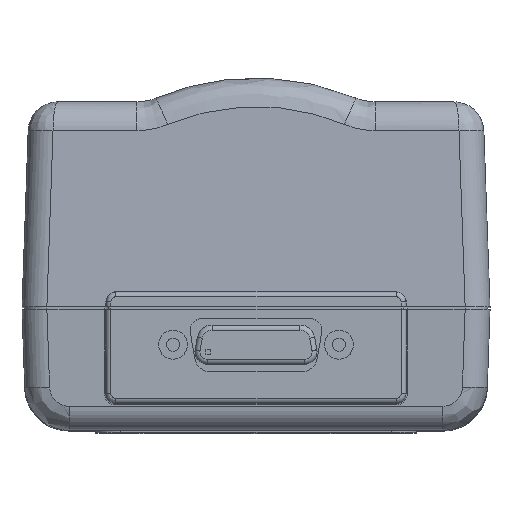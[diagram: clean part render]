
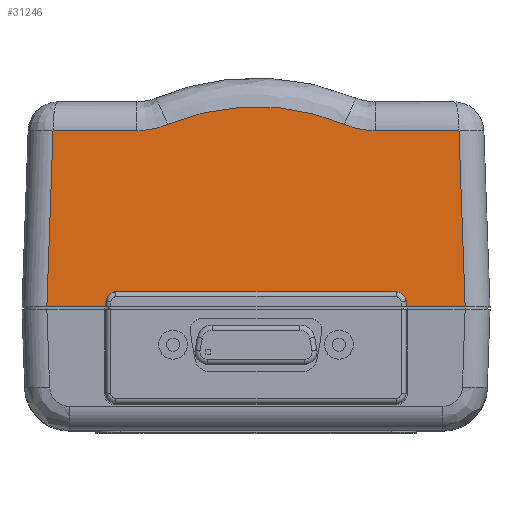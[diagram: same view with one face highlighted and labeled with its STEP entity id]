
A CAD part, top view. The second image highlights one B-rep face of the part: STEP entity #31246.
In plain terms, the highlighted planar face has unit normal (0, 0.035, 0.999).
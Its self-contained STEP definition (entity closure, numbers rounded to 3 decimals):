
#2376=ELLIPSE('',#33282,2.001,2.);
#2377=ELLIPSE('',#33285,2.001,2.);
#2391=ELLIPSE('',#33333,16.01,16.);
#2392=ELLIPSE('',#33335,46.028,46.);
#2393=ELLIPSE('',#33337,16.01,16.);
#2846=PLANE('',#33348);
#3865=FACE_OUTER_BOUND('',#5722,.T.);
#5722=EDGE_LOOP('',(#22357,#22358,#22359,#22360,#22361,#22362,#22363,#22364,
#22365,#22366,#22367,#22368,#22369,#22370));
#7572=LINE('',#40670,#10484);
#7576=LINE('',#40690,#10488);
#7744=LINE('',#41401,#10656);
#7747=LINE('',#41409,#10659);
#7749=LINE('',#41415,#10661);
#7764=LINE('',#41712,#10676);
#7765=LINE('',#41809,#10677);
#7770=LINE('',#41822,#10682);
#7773=LINE('',#41828,#10685);
#10484=VECTOR('',#34838,10.);
#10488=VECTOR('',#34854,10.);
#10656=VECTOR('',#35352,10.);
#10659=VECTOR('',#35361,10.);
#10661=VECTOR('',#35369,10.);
#10676=VECTOR('',#35474,10.);
#10677=VECTOR('',#35491,10.);
#10682=VECTOR('',#35506,10.);
#10685=VECTOR('',#35515,10.);
#13678=VERTEX_POINT('',#40667);
#13679=VERTEX_POINT('',#40669);
#13688=VERTEX_POINT('',#40687);
#13689=VERTEX_POINT('',#40689);
#13829=VERTEX_POINT('',#41399);
#13830=VERTEX_POINT('',#41403);
#13831=VERTEX_POINT('',#41407);
#13832=VERTEX_POINT('',#41411);
#13849=VERTEX_POINT('',#41610);
#13851=VERTEX_POINT('',#41657);
#13863=VERTEX_POINT('',#41710);
#13864=VERTEX_POINT('',#41737);
#13865=VERTEX_POINT('',#41776);
#13867=VERTEX_POINT('',#41804);
#16848=EDGE_CURVE('',#13678,#13679,#7572,.T.);
#16858=EDGE_CURVE('',#13688,#13689,#7576,.T.);
#17104=EDGE_CURVE('',#13678,#13829,#7744,.T.);
#17106=EDGE_CURVE('',#13830,#13829,#2376,.F.);
#17108=EDGE_CURVE('',#13830,#13831,#7747,.T.);
#17110=EDGE_CURVE('',#13832,#13831,#2377,.F.);
#17111=EDGE_CURVE('',#13832,#13689,#7749,.T.);
#17160=EDGE_CURVE('',#13863,#13851,#7764,.T.);
#17162=EDGE_CURVE('',#13864,#13863,#2391,.T.);
#17164=EDGE_CURVE('',#13865,#13864,#2392,.T.);
#17166=EDGE_CURVE('',#13867,#13865,#2393,.T.);
#17168=EDGE_CURVE('',#13849,#13867,#7765,.T.);
#17174=EDGE_CURVE('',#13851,#13688,#7770,.T.);
#17177=EDGE_CURVE('',#13679,#13849,#7773,.T.);
#22357=ORIENTED_EDGE('',*,*,#17111,.T.);
#22358=ORIENTED_EDGE('',*,*,#16858,.F.);
#22359=ORIENTED_EDGE('',*,*,#17174,.F.);
#22360=ORIENTED_EDGE('',*,*,#17160,.F.);
#22361=ORIENTED_EDGE('',*,*,#17162,.F.);
#22362=ORIENTED_EDGE('',*,*,#17164,.F.);
#22363=ORIENTED_EDGE('',*,*,#17166,.F.);
#22364=ORIENTED_EDGE('',*,*,#17168,.F.);
#22365=ORIENTED_EDGE('',*,*,#17177,.F.);
#22366=ORIENTED_EDGE('',*,*,#16848,.F.);
#22367=ORIENTED_EDGE('',*,*,#17104,.T.);
#22368=ORIENTED_EDGE('',*,*,#17106,.F.);
#22369=ORIENTED_EDGE('',*,*,#17108,.T.);
#22370=ORIENTED_EDGE('',*,*,#17110,.F.);
#31246=ADVANCED_FACE('',(#3865),#2846,.T.);
#33282=AXIS2_PLACEMENT_3D('',#41405,#35356,#35357);
#33285=AXIS2_PLACEMENT_3D('',#41413,#35365,#35366);
#33333=AXIS2_PLACEMENT_3D('',#41739,#35477,#35478);
#33335=AXIS2_PLACEMENT_3D('',#41778,#35481,#35482);
#33337=AXIS2_PLACEMENT_3D('',#41806,#35485,#35486);
#33348=AXIS2_PLACEMENT_3D('',#41829,#35516,#35517);
#34838=DIRECTION('',(-1.,0.,0.));
#34854=DIRECTION('',(-1.,0.,0.));
#35352=DIRECTION('',(0.,0.999,-0.035));
#35356=DIRECTION('center_axis',(0.,-0.035,-0.999));
#35357=DIRECTION('ref_axis',(0.,0.999,-0.035));
#35361=DIRECTION('',(1.,0.,0.));
#35365=DIRECTION('center_axis',(0.,-0.035,-0.999));
#35366=DIRECTION('ref_axis',(0.,0.999,-0.035));
#35369=DIRECTION('',(0.,-0.999,0.035));
#35474=DIRECTION('',(1.,0.,0.));
#35477=DIRECTION('center_axis',(0.,0.035,0.999));
#35478=DIRECTION('ref_axis',(0.,-0.999,0.035));
#35481=DIRECTION('center_axis',(0.,-0.035,-0.999));
#35482=DIRECTION('ref_axis',(0.,0.999,-0.035));
#35485=DIRECTION('center_axis',(0.,0.035,0.999));
#35486=DIRECTION('ref_axis',(0.,-0.999,0.035));
#35491=DIRECTION('',(1.,0.,0.));
#35506=DIRECTION('',(0.035,-0.999,0.035));
#35515=DIRECTION('',(0.035,0.999,-0.035));
#35516=DIRECTION('center_axis',(0.,0.035,0.999));
#35517=DIRECTION('ref_axis',(1.,0.,0.));
#40667=CARTESIAN_POINT('',(-33.626,-20.047,138.203));
#40669=CARTESIAN_POINT('',(-45.479,-20.047,138.203));
#40670=CARTESIAN_POINT('',(43.524,-20.047,138.203));
#40687=CARTESIAN_POINT('',(38.527,-20.047,138.203));
#40689=CARTESIAN_POINT('',(26.674,-20.047,138.203));
#40690=CARTESIAN_POINT('',(43.524,-20.047,138.203));
#41399=CARTESIAN_POINT('',(-33.626,-19.047,138.168));
#41401=CARTESIAN_POINT('',(-33.626,-20.066,138.204));
#41403=CARTESIAN_POINT('',(-31.626,-17.047,138.098));
#41405=CARTESIAN_POINT('Origin',(-31.626,-19.047,138.168));
#41407=CARTESIAN_POINT('',(24.674,-17.047,138.098));
#41409=CARTESIAN_POINT('',(4.949,-17.047,138.098));
#41411=CARTESIAN_POINT('',(26.674,-19.047,138.168));
#41413=CARTESIAN_POINT('Origin',(24.674,-19.047,138.168));
#41415=CARTESIAN_POINT('',(26.674,-18.568,138.152));
#41610=CARTESIAN_POINT('',(-44.242,15.363,136.967));
#41657=CARTESIAN_POINT('',(37.291,15.363,136.967));
#41710=CARTESIAN_POINT('',(20.452,15.363,136.967));
#41712=CARTESIAN_POINT('',(20.024,15.363,136.967));
#41737=CARTESIAN_POINT('',(14.279,16.602,136.923));
#41739=CARTESIAN_POINT('Origin',(20.452,31.363,136.408));
#41776=CARTESIAN_POINT('',(-21.215,16.602,136.923));
#41778=CARTESIAN_POINT('Origin',(-3.468,-25.837,138.405));
#41804=CARTESIAN_POINT('',(-27.388,15.363,136.967));
#41806=CARTESIAN_POINT('Origin',(-27.388,31.363,136.408));
#41809=CARTESIAN_POINT('',(20.024,15.363,136.967));
#41822=CARTESIAN_POINT('',(38.472,-18.465,138.148));
#41828=CARTESIAN_POINT('',(-45.428,-18.583,138.152));
#41829=CARTESIAN_POINT('Origin',(43.524,-20.047,138.203));
